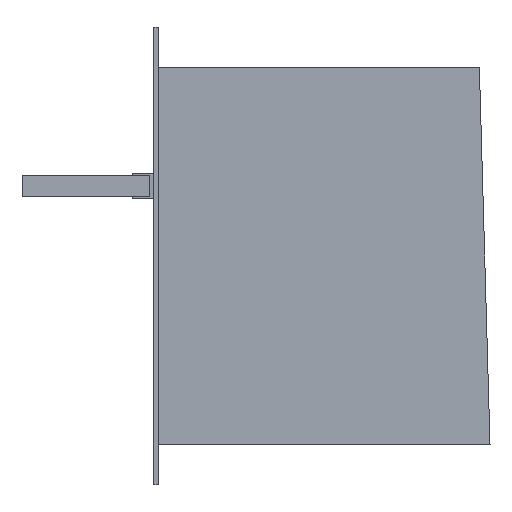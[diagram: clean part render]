
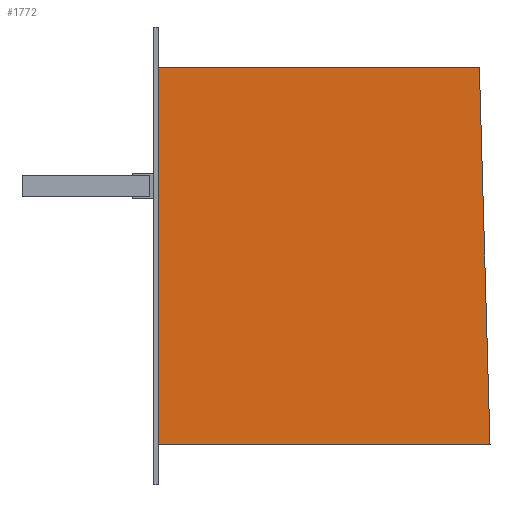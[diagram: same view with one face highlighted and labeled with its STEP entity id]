
A CAD part, left-side view. The second image highlights one B-rep face of the part: STEP entity #1772.
In plain terms, the highlighted planar face has unit normal (-1, 0, 0).
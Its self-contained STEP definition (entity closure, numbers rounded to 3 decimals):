
#42 = DIRECTION ( 'NONE',  ( 0., 0., -1. ) ) ;
#52 = ORIENTED_EDGE ( 'NONE', *, *, #1447, .T. ) ;
#106 = LINE ( 'NONE', #1172, #584 ) ;
#109 = CARTESIAN_POINT ( 'NONE',  ( -841., 0., 88.5 ) ) ;
#208 = FACE_OUTER_BOUND ( 'NONE', #1088, .T. ) ;
#324 = VECTOR ( 'NONE', #1114, 1000. ) ;
#436 = DIRECTION ( 'NONE',  ( 0., -1., 0. ) ) ;
#497 = CARTESIAN_POINT ( 'NONE',  ( -841., 0., 88.5 ) ) ;
#584 = VECTOR ( 'NONE', #436, 1000. ) ;
#603 = ORIENTED_EDGE ( 'NONE', *, *, #720, .T. ) ;
#690 = VERTEX_POINT ( 'NONE', #1294 ) ;
#720 = EDGE_CURVE ( 'NONE', #1911, #1637, #975, .T. ) ;
#759 = ORIENTED_EDGE ( 'NONE', *, *, #847, .T. ) ;
#765 = VERTEX_POINT ( 'NONE', #497 ) ;
#792 = DIRECTION ( 'NONE',  ( 1., 0., 0. ) ) ;
#811 = LINE ( 'NONE', #1417, #1817 ) ;
#847 = EDGE_CURVE ( 'NONE', #690, #1911, #106, .T. ) ;
#952 = CARTESIAN_POINT ( 'NONE',  ( -841., -151., 88.5 ) ) ;
#975 = LINE ( 'NONE', #952, #1917 ) ;
#980 = PLANE ( 'NONE',  #1149 ) ;
#983 = DIRECTION ( 'NONE',  ( 0., 0.028, 1. ) ) ;
#989 = CARTESIAN_POINT ( 'NONE',  ( -841., -156., -88.5 ) ) ;
#1001 = ORIENTED_EDGE ( 'NONE', *, *, #1585, .T. ) ;
#1088 = EDGE_LOOP ( 'NONE', ( #759, #603, #1001, #52 ) ) ;
#1108 = CARTESIAN_POINT ( 'NONE',  ( -841., 2., 107.5 ) ) ;
#1114 = DIRECTION ( 'NONE',  ( 0., 1., 0. ) ) ;
#1149 = AXIS2_PLACEMENT_3D ( 'NONE', #1108, #792, #1696 ) ;
#1172 = CARTESIAN_POINT ( 'NONE',  ( -841., 0., -88.5 ) ) ;
#1188 = CARTESIAN_POINT ( 'NONE',  ( -841., -151., 88.5 ) ) ;
#1294 = CARTESIAN_POINT ( 'NONE',  ( -841., 0., -88.5 ) ) ;
#1417 = CARTESIAN_POINT ( 'NONE',  ( -841., 0., 88.5 ) ) ;
#1447 = EDGE_CURVE ( 'NONE', #765, #690, #811, .T. ) ;
#1453 = LINE ( 'NONE', #109, #324 ) ;
#1585 = EDGE_CURVE ( 'NONE', #1637, #765, #1453, .T. ) ;
#1637 = VERTEX_POINT ( 'NONE', #1188 ) ;
#1696 = DIRECTION ( 'NONE',  ( 0., 0., -1. ) ) ;
#1772 = ADVANCED_FACE ( 'NONE', ( #208 ), #980, .F. ) ;
#1817 = VECTOR ( 'NONE', #42, 1000. ) ;
#1911 = VERTEX_POINT ( 'NONE', #989 ) ;
#1917 = VECTOR ( 'NONE', #983, 1000. ) ;
